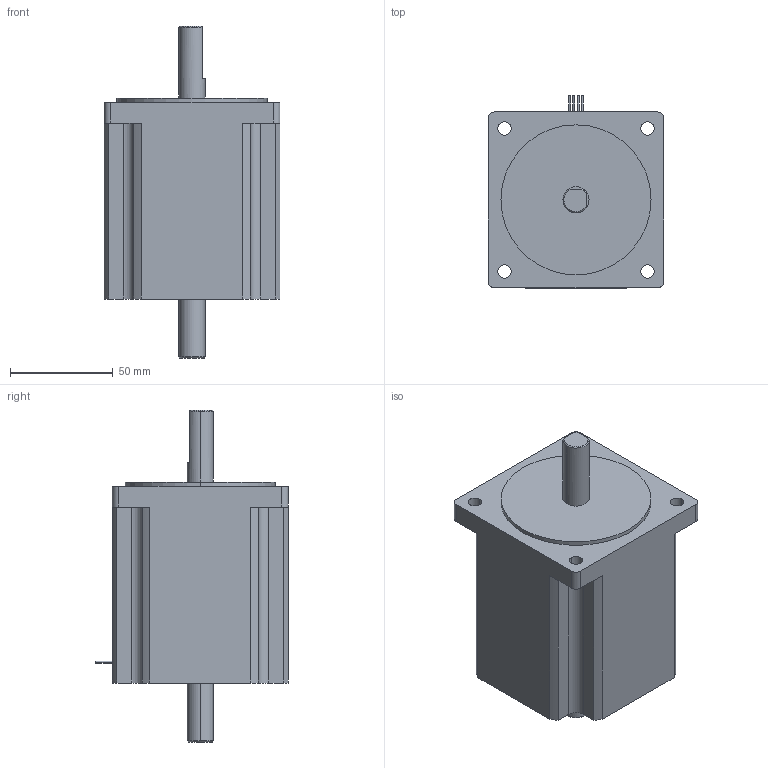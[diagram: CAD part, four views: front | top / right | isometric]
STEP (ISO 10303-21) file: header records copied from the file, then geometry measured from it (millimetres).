
FILE_DESCRIPTION((''),'2;1');
FILE_NAME('C:\Documents and Settings\rbadgerow\Desktop\webmodelmain\web step 3d\8718m\8718m d.stp','2005-05-24T07:32:52',('rbadgerow'),(''),'Autodesk Inventor 9','Autodesk Inventor 9','');
FILE_SCHEMA(('AUTOMOTIVE_DESIGN { 1 0 10303 214 1 1 1 1 }'));
Length unit declared in the file: inch
Products named in the file (1): 8718m d
Bounding box: 85.6 x 93.6 x 161.54 mm (x, y, z)
Volume: 643507.3 mm3; surface area: 49269.2 mm2
Topology: 1 solids, 2 shells, 76 faces, 194 edges, 129 vertices
Faces by surface type: cylinder 40, plane 31, cone 5
Entity records: 2376 total; most frequent: DIRECTION 435, CARTESIAN_POINT 408, ORIENTED_EDGE 388, EDGE_CURVE 194, AXIS2_PLACEMENT_3D 168, VERTEX_POINT 129, VECTOR 99, LINE 99
